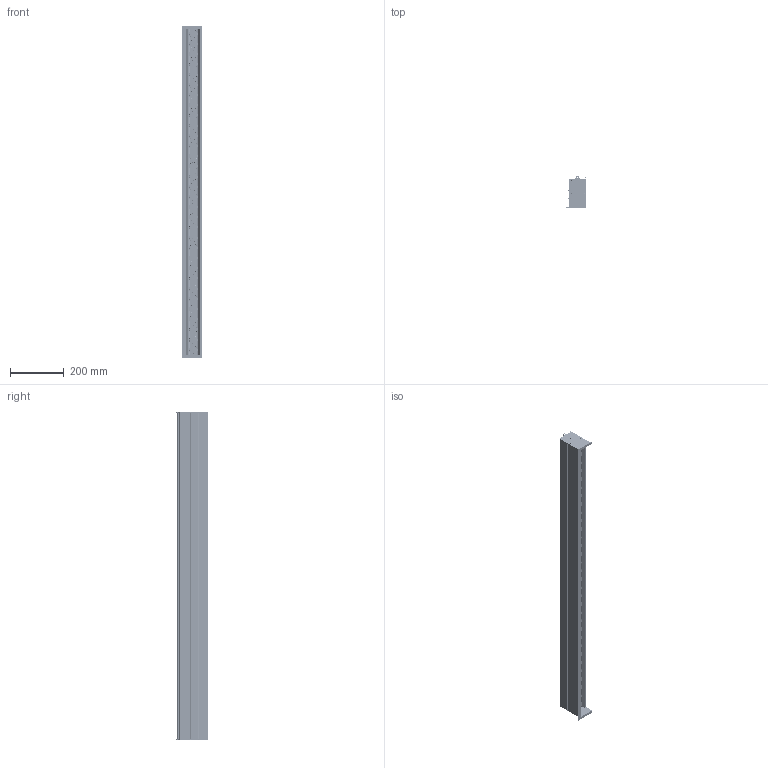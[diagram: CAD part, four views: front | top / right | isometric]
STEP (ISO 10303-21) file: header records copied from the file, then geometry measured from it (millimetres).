
FILE_DESCRIPTION (( 'STEP AP214' ), '1' );
FILE_NAME ('60PTLP-RBT-REO.STEP', '2023-02-14T21:01:33', ( '' ), ( '' ), 'SwSTEP 2.0', 'SolidWorks 2021', '' );
FILE_SCHEMA (( 'AUTOMOTIVE_DESIGN' ));
Length unit declared in the file: inch
Products named in the file (22): 730-20905-100; 410-20037; 60PTLP-RBT-REO; 710-10422-303-SA_710-10422-303-4''; 310-10159-101_92005A218; Mirror410-20037; ProTools Linear Perimeter GT_REO; 610-20809-930-152.4MM_Full length; 310-10029-101_92005A112; ProTools Linear Perimeter Housing Assemblies_Perimeter Bezel; 710-10414-300_IC90-L; 710-10424-300_710-10424-300-4''; ProTools Perimeter bezel end cap B; 310-10040-101_310-10040-101; 330-10009-400; ProTools Linear CCEA bezel end cap C; 730-10066; 730-20959-101; 720-10214-400; 730-20904-100; 310-10020-101_310-10020-101
Assembly tree (74 placements, depth 4):
  60PTLP-RBT-REO
    ProTools Linear Perimeter Housing Assemblies_Perimeter Bezel
      710-10414-300_IC90-L
      730-20904-100
        ProTools Linear CCEA bezel end cap C
        ProTools Perimeter bezel end cap B
      730-20905-100
        ProTools Linear CCEA bezel end cap C
        ProTools Perimeter bezel end cap B
      310-10040-101_310-10040-101  x6
    ProTools Linear Perimeter GT_REO
      710-10422-303-SA_710-10422-303-4''
      710-10424-300_710-10424-300-4''
      310-10029-101_92005A112  x5
      610-20809-930-152.4MM_Full length  x3
      310-10159-101_92005A218
      330-10009-400
      720-10214-400  x32
      310-10020-101_310-10020-101  x8
      730-20959-101  x2
      730-10066  x2
      410-20037
        410-20037
        Mirror410-20037
Bounding box: 74 x 120.95 x 1240.79 mm (x, y, z)
Volume: 1947211.1 mm3; surface area: 1925136.7 mm2
Topology: 133 solids, 133 shells, 26978 faces, 70799 edges, 44831 vertices
Faces by surface type: plane 8288, cylinder 7255, bspline 6706, cone 3135, torus 1566, sphere 28
Entity records: 94993 total; most frequent: CARTESIAN_POINT 32883, ORIENTED_EDGE 12912, DIRECTION 11340, EDGE_CURVE 6456, VERTEX_POINT 4221, AXIS2_PLACEMENT_3D 3948, VECTOR 3444, LINE 3444
